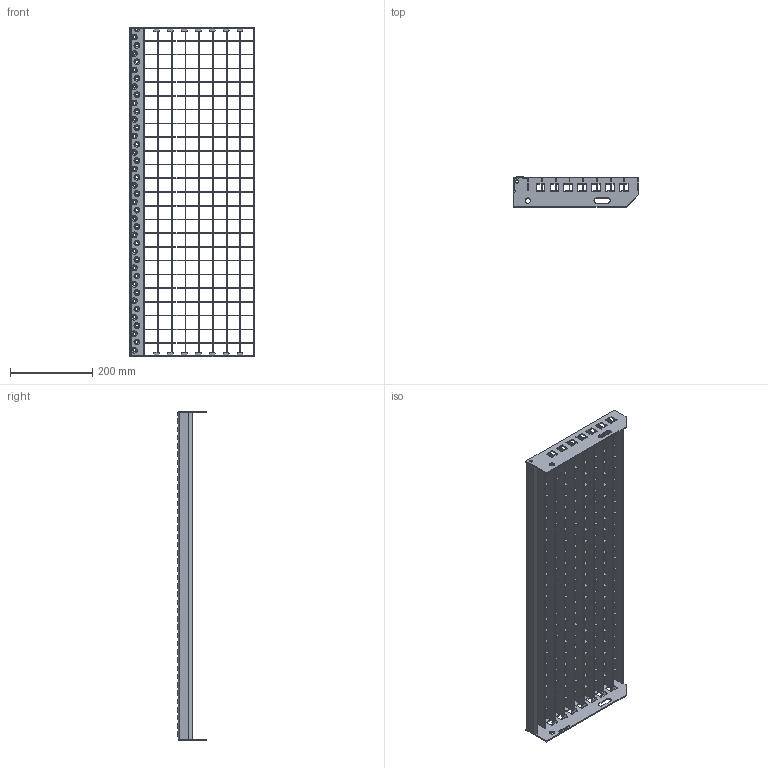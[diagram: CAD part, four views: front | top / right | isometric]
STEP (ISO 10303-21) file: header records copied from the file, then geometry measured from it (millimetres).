
FILE_DESCRIPTION(/* description */ ('','CAx-IF Rec.Pracs.---Representation and Presentation of Product Manufacturing Information (PMI)---3.8---2014-02-18'),/* implementation_level */ '2;1');
FILE_NAME(/* name */ 'C:\Users\phaverkotte\Desktop\Lager STEP\P-Stufen\P 230-33-2\P 230-33-2 800mm x 305mm.stp',/* time_stamp */ '2018-03-24T09:52:48+01:00',/* author */ ('phaverkotte'),/* organization */ (''),/* preprocessor_version */ 'ST-DEVELOPER v16.13',/* originating_system */ 'Autodesk Inventor 2018',/* authorisation */ '');
FILE_SCHEMA (('AP242_MANAGED_MODEL_BASED_3D_ENGINEERING_MIM_LF { 1 0 10303 442 1 1 4 }'));
Length unit declared in the file: millimetre
Products named in the file (8): Schodišťový stupeň přím
ý lisovaný; Seitenplatte ausgeklinkt links; Seitenplatte 240 ausgeklinkt extern rechts; Schod nášlap; P Rošt schodu; Querstab; P Nosný pás; Hinteres Flach
Assembly tree (36 placements, depth 3):
  Schodišťový stupeň přím
ý lisovaný
    Seitenplatte ausgeklinkt links
    Seitenplatte 240 ausgeklinkt extern rechts
    Schod nášlap
    P Rošt schodu
      Querstab  x23
      P Nosný pás  x8
      Hinteres Flach
Bounding box: 303.64 x 72.75 x 800 mm (x, y, z)
Volume: 764164.1 mm3; surface area: 786406.1 mm2
Topology: 35 solids, 35 shells, 1602 faces, 4423 edges, 2908 vertices
Faces by surface type: plane 1262, cylinder 152, cone 120, torus 40, bspline 28
Full cylindrical faces by diameter (mm): 8 x2, 13 x2
Entity records: 28773 total; most frequent: CARTESIAN_POINT 8989, DIRECTION 3948, ORIENTED_EDGE 3808, EDGE_CURVE 1904, LINE 1336, VECTOR 1336, VERTEX_POINT 1309, AXIS2_PLACEMENT_3D 1306
